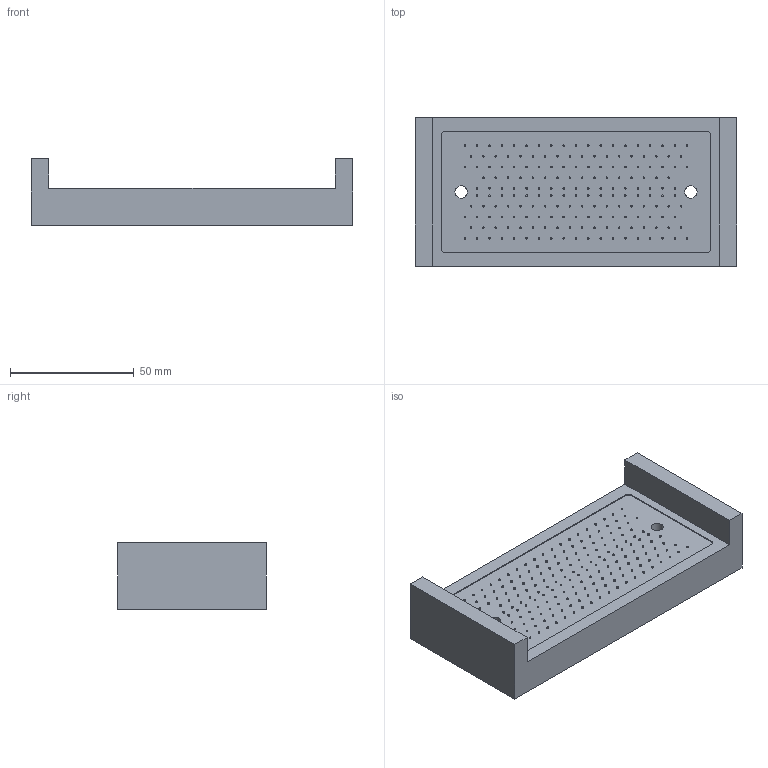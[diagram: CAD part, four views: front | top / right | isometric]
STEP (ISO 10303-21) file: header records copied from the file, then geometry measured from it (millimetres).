
FILE_DESCRIPTION(/* description */ ('Unknown','CAx-IF Rec.Pracs.---Representation and Presentation of Product Manufacturing Information (PMI)---4.0---2014-10-13','CAx-IF Rec.Pracs.---3D Tessellated Geometry---0.4---2014-09-14','2;1'),/* implementation_level */ '2;1');
FILE_NAME(/* name */ 'flow2-12U-TIM',/* time_stamp */ '2026-01-15T12:48:12+01:00',/* author */ ('Unknown'),/* organization */ ('Unknown'),/* preprocessor_version */ 'ST-DEVELOPER v20',/* originating_system */ 'Solid Edge',/* authorisation */ 'Unknown');
FILE_SCHEMA (('AP242_MANAGED_MODEL_BASED_3D_ENGINEERING_MIM_LF { 1 0 10303 442 1 1 4 }'));
Length unit declared in the file: millimetre
Products named in the file (1): flow2-12U-TIM
Bounding box: 130 x 60 x 27.1 mm (x, y, z)
Volume: 124297.7 mm3; surface area: 25454.9 mm2
Topology: 1 solids, 1 shells, 448 faces, 769 edges, 512 vertices
Faces by surface type: plane 243, cylinder 189, bspline 14, cone 2
Full cylindrical faces by diameter (mm): 0.6 x179, 3.242 x4, 5 x2
Entity records: 13778 total; most frequent: CARTESIAN_POINT 2463, DIRECTION 1798, ORIENTED_EDGE 1152, FACE_BOUND 832, EDGE_LOOP 830, AXIS2_PLACEMENT_3D 813, EDGE_CURVE 576, VERTEX_POINT 510
